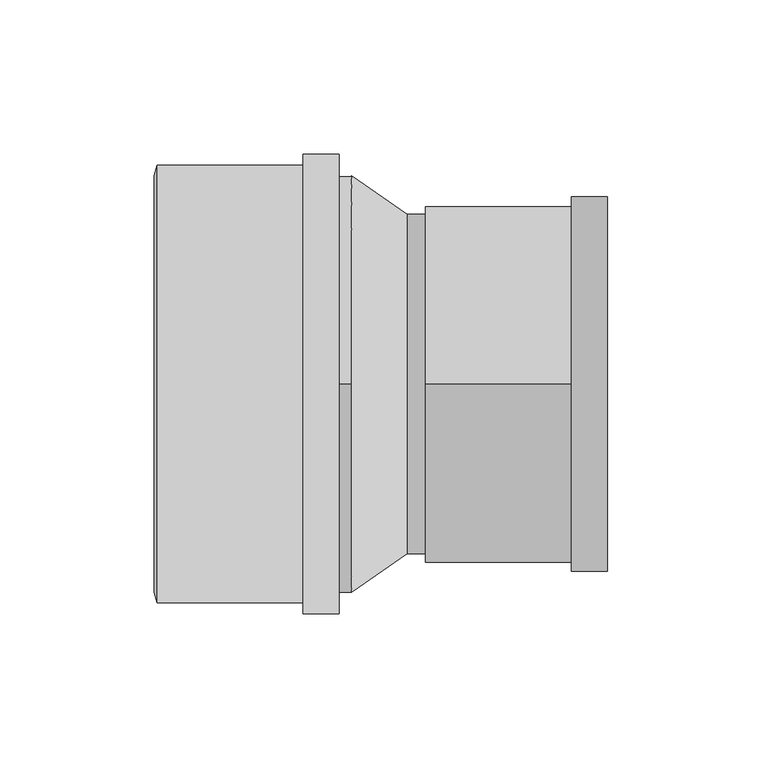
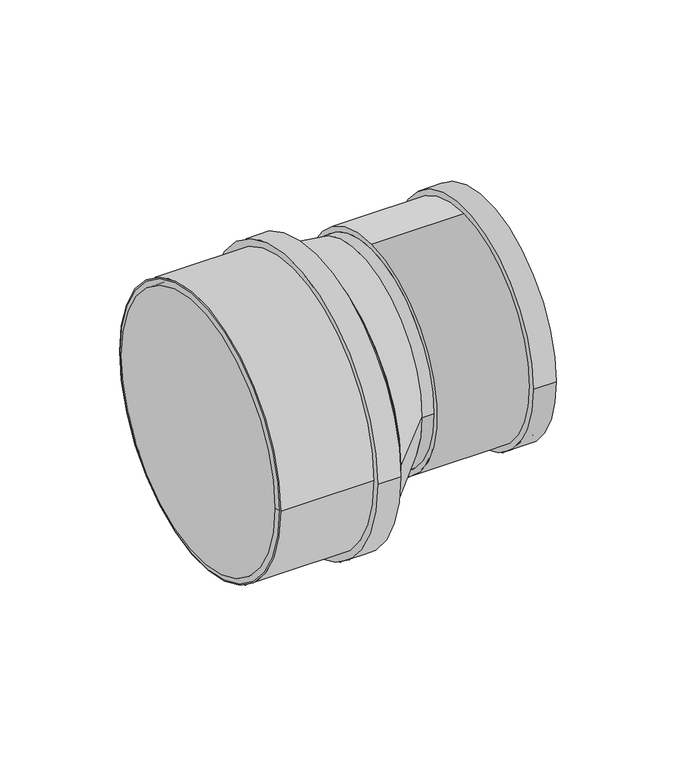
"""IFC4 building model written with IfcOpenShell, lengths in millimetres: pipe fitting geometry, Superdrain SKR-Reducer : Superdrain SKR-Reducer."""

from ifc_helpers import new_model, si_unit, point, frame, frame_2d, origin, origin_2d, place, context, project, spatial, polyline, circle_curve, trimmed, segment, composite_curve, outline, extrude, source, transform, mapped, element, save
from ifc_brep_helpers import plane_surface, revolved_surface, spline_surface, advanced_brep


def pipe_fitting_86bbdece(model_context):
    return source(origin(), model_context, "Body", "SolidModel", [
        extrude(outline(composite_curve([segment(trimmed(circle_curve(frame_2d((0.0, 0.1450234)), 70.875), [point((70.875, 0.1450234))], [point((-70.875, 0.1450234))], False, "CARTESIAN"), True, "CONTINUOUS"), segment(trimmed(circle_curve(frame_2d((0.0, 0.1450234)), 70.875), [point((-70.875, 0.1450234))], [point((70.875, 0.1450234))], False, "CARTESIAN"), True, "CONTINUOUS")], self_intersect=False), holes=[composite_curve([segment(trimmed(circle_curve(frame_2d((0.0, 0.1450234)), 67.5), [point((67.5, 0.1450234))], [point((-67.5, 0.1450234))], True, "CARTESIAN"), True, "CONTINUOUS"), segment(trimmed(circle_curve(frame_2d((0.0, 0.1450234)), 67.5), [point((-67.5, 0.1450234))], [point((67.5, 0.1450234))], True, "CARTESIAN"), True, "CONTINUOUS")], self_intersect=False)]), frame((-63.0, 0.0, 0.0), z_axis=(1.0, 0.0, 0.0), x_axis=(0.0, 1.0, 0.0)), (0.0, 0.0, 1.0), 59.0),
        extrude(outline(composite_curve([segment(trimmed(circle_curve(frame_2d((0.0, 0.1450234)), 74.41875), [point((74.41875, 0.1450234))], [point((-74.41875, 0.1450234))], False, "CARTESIAN"), True, "CONTINUOUS"), segment(trimmed(circle_curve(frame_2d((0.0, 0.1450234)), 74.41875), [point((-74.41875, 0.1450234))], [point((74.41875, 0.1450234))], False, "CARTESIAN"), True, "CONTINUOUS")], self_intersect=False), holes=[composite_curve([segment(trimmed(circle_curve(frame_2d((0.0, 0.1450234)), 67.5), [point((67.5, 0.1450234))], [point((-67.5, 0.1450234))], True, "CARTESIAN"), True, "CONTINUOUS"), segment(trimmed(circle_curve(frame_2d((0.0, 0.1450234)), 67.5), [point((-67.5, 0.1450234))], [point((67.5, 0.1450234))], True, "CARTESIAN"), True, "CONTINUOUS")], self_intersect=False)]), frame((-15.8, 0.0, 0.0), z_axis=(1.0, 0.0, 0.0), x_axis=(0.0, 1.0, 0.0)), (0.0, 0.0, 1.0), 11.8),
        advanced_brep(
        [(-64.0, 67.5, 0.1450234), (-64.0, -67.5, 0.1450234), (-63.0, 70.875, 0.1450234), (-63.0, -70.875, 0.1450234)],
        [
            (0, 1, circle_curve(frame((-64.0, 0.0, 0.1450234), z_axis=(-1.0, 0.0, 0.0), x_axis=(0.0, 1.0, 0.0)), 67.5)),
            (1, 0, circle_curve(frame((-64.0, 0.0, 0.1450234), z_axis=(-1.0, 0.0, 0.0), x_axis=(0.0, -1.0, 0.0)), 67.5)),
            (2, 3, circle_curve(frame((-63.0, 0.0, 0.1450234), z_axis=(1.0, 0.0, 0.0), x_axis=(0.0, -1.0, 0.0)), 70.875)),
            (3, 2, circle_curve(frame((-63.0, 0.0, 0.1450234), z_axis=(1.0, 0.0, 0.0), x_axis=(0.0, 1.0, 0.0)), 70.875)),
            (3, 1),
            (0, 2),
        ],
        [
            plane_surface(frame((-64.0, 0.0, 0.1450234), z_axis=(-1.0, 0.0, 0.0), x_axis=(0.0, 0.0, -1.0))),
            plane_surface(frame((-63.0, 0.0, 0.1450234), z_axis=(1.0, 0.0, 0.0), x_axis=(0.0, 0.0, -1.0))),
            revolved_surface(polyline([(-64.0, 67.5, 0.1450234), (-63.0, 70.875, 0.1450234)]), (-84.0, 0.0, 0.1450234), (1.0, 0.0, 0.0)),
            revolved_surface(polyline([(-64.0, -67.5, 0.1450234), (-63.0, -70.875, 0.1450234)]), (-84.0, 0.0, 0.1450234), (1.0, 0.0, 0.0)),
        ],
        [
            (0, [[1, 2]]),
            (1, [[3, 4]]),
            (2, [[-4, 5, -1, 6]]),
            (3, [[-3, -6, -2, -5]]),
        ],
    ),
        advanced_brep(
        [(18.0, -55.0, 12.5), (18.0, 55.0, 12.5), (0.0, -67.5, 0.0), (0.0, 67.5, 0.0)],
        [
            (0, 1, circle_curve(frame((18.0, 0.0, 12.5), z_axis=(1.0, 0.0, 0.0), x_axis=(0.0, 1.0, 0.0)), 55.0)),
            (1, 0, circle_curve(frame((18.0, 0.0, 12.5), z_axis=(1.0, 0.0, 0.0), x_axis=(0.0, 1.0, 0.0)), 55.0)),
            (2, 3, circle_curve(frame((0.0, 0.0, 0.0), z_axis=(-1.0, 0.0, 0.0), x_axis=(0.0, 1.0, 0.0)), 67.5)),
            (3, 2, circle_curve(frame((0.0, 0.0, 0.0), z_axis=(-1.0, 0.0, 0.0), x_axis=(0.0, 1.0, 0.0)), 67.5)),
            (3, 1),
            (0, 2),
        ],
        [
            plane_surface(frame((18.0, 0.0, 12.5), z_axis=(1.0, 0.0, 0.0), x_axis=(0.0, 0.0, -1.0))),
            plane_surface(frame((0.0, 0.0, 0.0), z_axis=(-1.0, 0.0, 0.0), x_axis=(0.0, 0.0, -1.0))),
            spline_surface(2, 1, [[(0.0, -67.5, 0.0), (18.0, -55.0, 12.5)], [(0.0, -67.5, -67.5), (18.0, -55.0, -42.5)], [(0.0, 0.0, -67.5), (18.0, 0.0, -42.5)], [(0.0, 67.5, -67.5), (18.0, 55.0, -42.5)], [(0.0, 67.5, 0.0), (18.0, 55.0, 12.5)]], [3, 2, 3], [2, 2], [0.0, 1.0, 2.0], [0.0, 1.0], weights=[[1.0, 1.0], [0.7071067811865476, 0.7071067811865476], [1.0, 1.0], [0.7071067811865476, 0.7071067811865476], [1.0, 1.0]]),
            spline_surface(2, 1, [[(0.0, 67.5, 0.0), (18.0, 55.0, 12.5)], [(0.0, 67.5, 67.5), (18.0, 55.0, 67.5)], [(0.0, 0.0, 67.5), (18.0, 0.0, 67.5)], [(0.0, -67.5, 67.5), (18.0, -55.0, 67.5)], [(0.0, -67.5, 0.0), (18.0, -55.0, 12.5)]], [3, 2, 3], [2, 2], [0.0, 1.0, 2.0], [0.0, 1.0], weights=[[1.0, 1.0], [0.7071067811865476, 0.7071067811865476], [1.0, 1.0], [0.7071067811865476, 0.7071067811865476], [1.0, 1.0]]),
        ],
        [
            (0, [[1, 2]]),
            (1, [[3, 4]]),
            (2, [[-4, 5, -1, 6]]),
            (3, [[-3, -6, -2, -5]]),
        ],
    ),
        extrude(outline(composite_curve([segment(trimmed(circle_curve(frame_2d((0.0, 12.5)), 55.0), [point((-55.0, 12.5))], [point((55.0, 12.5))], False, "CARTESIAN"), True, "CONTINUOUS"), segment(trimmed(circle_curve(frame_2d((0.0, 12.5)), 55.0), [point((55.0, 12.5))], [point((-55.0, 12.5))], False, "CARTESIAN"), True, "CONTINUOUS")], self_intersect=False)), frame((18.0, 0.0, 0.0), z_axis=(1.0, 0.0, 0.0), x_axis=(0.0, 1.0, 0.0)), (0.0, 0.0, 1.0), 6.0),
        extrude(outline(composite_curve([segment(trimmed(circle_curve(frame_2d((0.0, 12.5)), 60.6375), [point((-60.6375, 12.5))], [point((60.6375, 12.5))], False, "CARTESIAN"), True, "CONTINUOUS"), segment(trimmed(circle_curve(frame_2d((0.0, 12.5)), 60.6375), [point((60.6375, 12.5))], [point((-60.6375, 12.5))], False, "CARTESIAN"), True, "CONTINUOUS")], self_intersect=False), holes=[composite_curve([segment(trimmed(circle_curve(frame_2d((0.0, 12.5)), 55.0), [point((55.0, 12.5))], [point((-55.0, 12.5))], True, "CARTESIAN"), True, "CONTINUOUS"), segment(trimmed(circle_curve(frame_2d((0.0, 12.5)), 55.0), [point((-55.0, 12.5))], [point((55.0, 12.5))], True, "CARTESIAN"), True, "CONTINUOUS")], self_intersect=False)]), frame((71.2, 0.0, 0.0), z_axis=(1.0, 0.0, 0.0), x_axis=(0.0, 1.0, 0.0)), (0.0, 0.0, 1.0), 11.8),
        extrude(outline(composite_curve([segment(trimmed(circle_curve(frame_2d((0.0, 12.5)), 57.75), [point((0.0, 70.25))], [point((0.0, -45.25))], False, "CARTESIAN"), True, "CONTINUOUS"), segment(trimmed(circle_curve(frame_2d((0.0, 12.5)), 57.75), [point((0.0, -45.25))], [point((0.0, 70.25))], False, "CARTESIAN"), True, "CONTINUOUS")], self_intersect=False), holes=[composite_curve([segment(trimmed(circle_curve(frame_2d((0.0, 12.5)), 55.0), [point((55.0, 12.5))], [point((-55.0, 12.5))], True, "CARTESIAN"), True, "CONTINUOUS"), segment(trimmed(circle_curve(frame_2d((0.0, 12.5)), 55.0), [point((-55.0, 12.5))], [point((55.0, 12.5))], True, "CARTESIAN"), True, "CONTINUOUS")], self_intersect=False)]), frame((24.0, 0.0, 0.0), z_axis=(1.0, 0.0, 0.0), x_axis=(0.0, 1.0, 0.0)), (0.0, 0.0, 1.0), 59.0),
        extrude(outline(composite_curve([segment(trimmed(circle_curve(origin_2d(), 67.5), [point((0.0, 67.5))], [point((0.0, -67.5))], False, "CARTESIAN"), True, "CONTINUOUS"), segment(trimmed(circle_curve(origin_2d(), 67.5), [point((0.0, -67.5))], [point((0.0, 67.5))], False, "CARTESIAN"), True, "CONTINUOUS")], self_intersect=False)), frame((-63.0, 0.0, 0.0), z_axis=(1.0, 0.0, 0.0), x_axis=(0.0, 1.0, 0.0)), (0.0, 0.0, 1.0), 63.0),
    ])


if __name__ == "__main__":
    model = new_model("IFC4")
    model_context = context("Model", 3, world=origin())
    ifc_project = project(units=[si_unit("LENGTHUNIT", "METRE", prefix="MILLI")], contexts=[model_context])
    site = spatial("IfcSite", under=ifc_project)
    building = spatial("IfcBuilding", under=site)
    placement = place(None, origin())
    pipe_fitting_shape = pipe_fitting_86bbdece(model_context)
    element("IfcPipeFitting", 1, ObjectType="Superdrain SKR-Reducer : Superdrain SKR-Reducer", at=placement, inside=building, context=model_context, shape_type="MappedRepresentation", body=[
        mapped(pipe_fitting_shape, transform((0.0, 0.0, 0.0), x_axis=(1.0, 0.0, 0.0), y_axis=(0.0, 1.0, 0.0), z_axis=(0.0, 0.0, 1.0))),
    ])
    save(model, "model.ifc")
